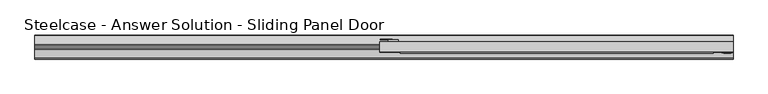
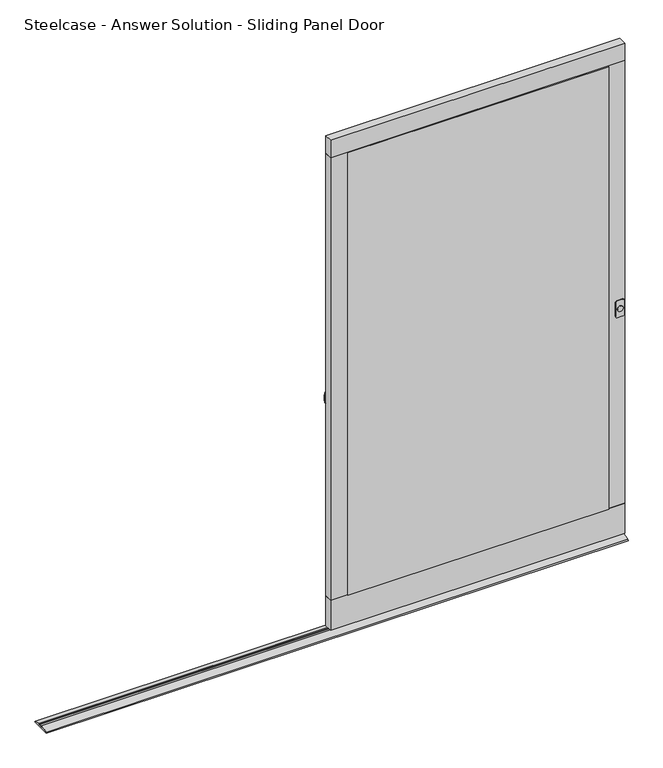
"""IFC4 building model written with IfcOpenShell, lengths in millimetres: furniture geometry."""

from ifc_helpers import new_model, si_unit, point, frame, frame_2d, origin, place, context, project, spatial, polyline, circle_curve, trimmed, segment, composite_curve, outline, extrude, source, transform, mapped, element, save


def steelcase_answer_solution_sliding_panel_door_c6693c55(model_context):
    return source(origin(), model_context, "Body", "SweptSolid", [
        extrude(outline(composite_curve([segment(trimmed(circle_curve(frame_2d((927.0989028, 2140.2278402)), 10.7468772), [point((927.0989028, 2150.9747174))], [point((927.0989028, 2129.480963))], False, "CARTESIAN"), True, "CONTINUOUS"), segment(trimmed(circle_curve(frame_2d((927.0989028, 2140.2278402)), 10.7468772), [point((927.0989028, 2129.480963))], [point((927.0989028, 2150.9747174))], False, "CARTESIAN"), True, "CONTINUOUS")], self_intersect=False)), frame((0.0, -58.27776, 0.0), z_axis=(0.0, 1.0, 0.0), x_axis=(0.0, 0.0, 1.0)), (0.0, 0.0, 1.0), 2.159),
        extrude(outline(composite_curve([segment(polyline([(958.8489028, 1079.6675713), (958.8489028, 1060.6175713)]), True, "CONTINUOUS"), segment(trimmed(circle_curve(frame_2d((939.7989028, 1060.6175713)), 19.05), [point((958.8489028, 1060.6175713))], [point((939.7989028, 1041.5675713))], False, "CARTESIAN"), True, "CONTINUOUS"), segment(polyline([(939.7989028, 1041.5675713), (914.3989028, 1041.5675713)]), True, "CONTINUOUS"), segment(trimmed(circle_curve(frame_2d((914.3989028, 1060.6175713)), 19.05), [point((914.3989028, 1041.5675713))], [point((895.3489028, 1060.6175713))], False, "CARTESIAN"), True, "CONTINUOUS"), segment(polyline([(895.3489028, 1060.6175713), (895.3489028, 1079.6675713), (908.0489028, 1079.6675713), (908.0489028, 1060.6175713)]), True, "CONTINUOUS"), segment(trimmed(circle_curve(frame_2d((914.3989028, 1060.6175713)), 6.35), [point((908.0489028, 1060.6175713))], [point((914.3989028, 1054.2675713))], True, "CARTESIAN"), True, "CONTINUOUS"), segment(polyline([(914.3989028, 1054.2675713), (939.7989028, 1054.2675713)]), True, "CONTINUOUS"), segment(trimmed(circle_curve(frame_2d((939.7989028, 1060.6175713)), 6.35), [point((939.7989028, 1054.2675713))], [point((946.1489028, 1060.6175713))], True, "CARTESIAN"), True, "CONTINUOUS"), segment(polyline([(946.1489028, 1060.6175713), (946.1489028, 1079.6675713), (958.8489028, 1079.6675713)]), True, "CONTINUOUS")], self_intersect=False)), frame((0.0, -15.6057635, 0.0), z_axis=(0.0, 1.0, 0.0), x_axis=(0.0, 0.0, 1.0)), (0.0, 0.0, 1.0), 2.032),
        extrude(outline(composite_curve([segment(polyline([(960.7539028, 2150.1735), (960.7539028, 2129.8535)]), True, "CONTINUOUS"), segment(trimmed(circle_curve(frame_2d((954.4039028, 2129.8535)), 6.35), [point((960.7539028, 2129.8535))], [point((954.4039028, 2123.5035))], False, "CARTESIAN"), True, "CONTINUOUS"), segment(polyline([(954.4039028, 2123.5035), (899.7939028, 2123.5035)]), True, "CONTINUOUS"), segment(trimmed(circle_curve(frame_2d((899.7939028, 2129.8535)), 6.35), [point((899.7939028, 2123.5035))], [point((893.4439028, 2129.8535))], False, "CARTESIAN"), True, "CONTINUOUS"), segment(polyline([(893.4439028, 2129.8535), (893.4439028, 2150.1735)]), True, "CONTINUOUS"), segment(trimmed(circle_curve(frame_2d((899.7939028, 2150.1735)), 6.35), [point((893.4439028, 2150.1735))], [point((899.7939028, 2156.5235))], False, "CARTESIAN"), True, "CONTINUOUS"), segment(polyline([(899.7939028, 2156.5235), (954.4039028, 2156.5235)]), True, "CONTINUOUS"), segment(trimmed(circle_curve(frame_2d((954.4039028, 2150.1735)), 6.35), [point((954.4039028, 2156.5235))], [point((960.7539028, 2150.1735))], False, "CARTESIAN"), True, "CONTINUOUS")], self_intersect=False)), frame((0.0, -56.11876, 0.0), z_axis=(0.0, 1.0, 0.0), x_axis=(0.0, 0.0, 1.0)), (0.0, 0.0, 1.0), 2.1589722),
        extrude(outline(polyline([(1099.82, -22.2097635), (1066.8, -22.2097635), (1066.8, -15.6057635), (1099.82, -15.6057635), (1099.82, -22.2097635)])), frame((0.0, 0.0, 828.673924), z_axis=(0.0, 0.0, 1.0), x_axis=(1.0, 0.0, 0.0)), (0.0, 0.0, 1.0), 196.85),
        extrude(outline(polyline([(2159.0, -53.9597878), (1041.4, -53.9597878), (1041.4, -22.2097635), (2159.0, -22.2097635), (2159.0, -53.9597878)])), frame((0.0, 0.0, 1915.1589729), z_axis=(0.0, 0.0, 1.0), x_axis=(1.0, 0.0, 0.0)), (0.0, 0.0, 1.0), 69.8499516),
        extrude(outline(polyline([(1104.8999031, -53.9597878), (1041.4, -53.9597878), (1041.4, -22.2097635), (1104.8999031, -22.2097635), (1104.8999031, -53.9597878)])), frame((0.0, 0.0, 137.1589275), z_axis=(0.0, 0.0, 1.0), x_axis=(1.0, 0.0, 0.0)), (0.0, 0.0, 1.0), 1778.0000454),
        extrude(outline(polyline([(2159.0, -53.9597878), (2095.5000969, -53.9597878), (2095.5000969, -22.2097635), (2159.0, -22.2097635), (2159.0, -53.9597878)])), frame((0.0, 0.0, 137.1589275), z_axis=(0.0, 0.0, 1.0), x_axis=(1.0, 0.0, 0.0)), (0.0, 0.0, 1.0), 1778.0000454),
        extrude(outline(polyline([(2159.0, -53.9597878), (1041.4, -53.9597878), (1041.4, -22.2097635), (2159.0, -22.2097635), (2159.0, -53.9597878)])), frame((0.0, 0.0, 16.5089245), z_axis=(0.0, 0.0, 1.0), x_axis=(1.0, 0.0, 0.0)), (0.0, 0.0, 1.0), 120.650003),
        extrude(outline(polyline([(2095.5000969, -53.9597878), (2095.5000969, -57.7514894), (1104.8999031, -57.7514894), (1104.8999031, -53.9597878), (2095.5000969, -53.9597878)])), frame((0.0, 0.0, 137.1589275), z_axis=(0.0, 0.0, 1.0), x_axis=(1.0, 0.0, 0.0)), (0.0, 0.0, 1.0), 1778.0000454),
        extrude(outline(polyline([(-29.8388763, 12.2491055), (-1.9333122, 3.0138476), (0.0, 0.0), (-76.1694786, 0.0), (-74.2361664, 3.0138476), (-46.3306023, 12.2491055), (-46.3306023, 6.2879429), (-39.9806265, 6.2879429), (-39.9806265, 12.6379637), (-36.1889248, 12.6379637), (-36.1889248, 6.2879429), (-29.8388763, 6.2879429), (-29.8388763, 12.2491055)])), frame((-50.8, 0.0, 0.0), z_axis=(1.0, 0.0, 0.0), x_axis=(0.0, 1.0, 0.0)), (0.0, 0.0, 1.0), 2209.8),
    ])


if __name__ == "__main__":
    model = new_model("IFC4")
    model_context = context("Model", 3, world=origin())
    ifc_project = project(units=[si_unit("LENGTHUNIT", "METRE", prefix="MILLI")], contexts=[model_context])
    site = spatial("IfcSite", under=ifc_project)
    building = spatial("IfcBuilding", under=site)
    placement = place(None, origin())
    steelcase_answer_solution_sliding_panel_door_shape = steelcase_answer_solution_sliding_panel_door_c6693c55(model_context)
    element("IfcFurniture", 1, ObjectType="Steelcase - Answer Solution - Sliding Panel Door : 78\" x 42\" - Left Door Handle & Lock", at=placement, inside=building, context=model_context, shape_type="MappedRepresentation", body=[
        mapped(steelcase_answer_solution_sliding_panel_door_shape, transform((0.0, 0.0, 0.0), x_axis=(1.0, 0.0, 0.0), y_axis=(0.0, 1.0, 0.0), z_axis=(0.0, 0.0, 1.0))),
    ])
    save(model, "model.ifc")
